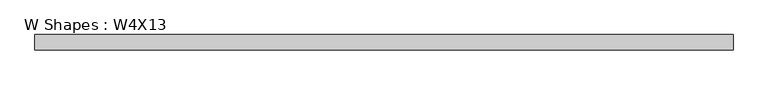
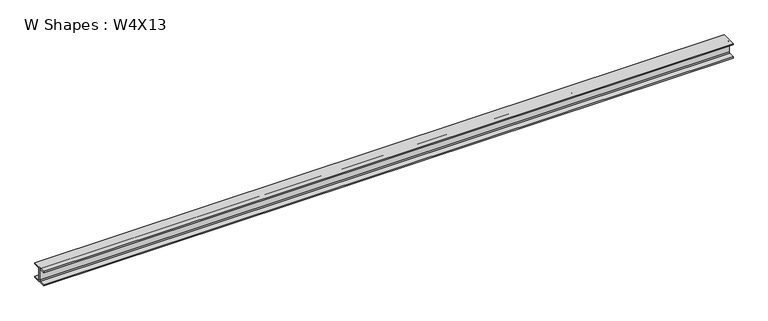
"""IFC4 building model written with IfcOpenShell, lengths in millimetres: beam geometry, W Shapes : W4X13."""

from ifc_helpers import new_model, si_unit, point, frame, frame_2d, origin, place, context, project, spatial, polyline, circle_curve, trimmed, segment, composite_curve, outline, extrude, source, transform, mapped, element, save


def w_shapes_w4x13_ff375d3b(model_context):
    return source(origin(), model_context, "Body", "SweptSolid", [
        extrude(outline(composite_curve([segment(polyline([(51.562, -44.069), (51.562, -52.832), (-51.562, -52.832), (-51.562, -44.069), (-9.906, -44.069)]), True, "CONTINUOUS"), segment(trimmed(circle_curve(frame_2d((-9.906, -37.719)), 6.35), [point((-9.906, -44.069))], [point((-3.556, -37.719))], True, "CARTESIAN"), True, "CONTINUOUS"), segment(polyline([(-3.556, -37.719), (-3.556, 37.719)]), True, "CONTINUOUS"), segment(trimmed(circle_curve(frame_2d((-9.906, 37.719)), 6.35), [point((-3.556, 37.719))], [point((-9.906, 44.069))], True, "CARTESIAN"), True, "CONTINUOUS"), segment(polyline([(-9.906, 44.069), (-51.562, 44.069), (-51.562, 52.832), (51.562, 52.832), (51.562, 44.069), (9.906, 44.069)]), True, "CONTINUOUS"), segment(trimmed(circle_curve(frame_2d((9.906, 37.719)), 6.35), [point((9.906, 44.069))], [point((3.556, 37.719))], True, "CARTESIAN"), True, "CONTINUOUS"), segment(polyline([(3.556, 37.719), (3.556, -37.719)]), True, "CONTINUOUS"), segment(trimmed(circle_curve(frame_2d((9.906, -37.719)), 6.35), [point((3.556, -37.719))], [point((9.906, -44.069))], True, "CARTESIAN"), True, "CONTINUOUS"), segment(polyline([(9.906, -44.069), (51.562, -44.069)]), True, "CONTINUOUS")], self_intersect=False)), frame((-2367.407, 0.0, 0.0), z_axis=(1.0, 0.0, 0.0), x_axis=(0.0, 1.0, 0.0)), (0.0, 0.0, 1.0), 4734.814),
    ])


if __name__ == "__main__":
    model = new_model("IFC4")
    model_context = context("Model", 3, world=origin())
    ifc_project = project(units=[si_unit("LENGTHUNIT", "METRE", prefix="MILLI")], contexts=[model_context])
    site = spatial("IfcSite", under=ifc_project)
    building = spatial("IfcBuilding", under=site)
    placement = place(None, origin())
    w_shapes_w4x13_shape = w_shapes_w4x13_ff375d3b(model_context)
    element("IfcBeam", 1, ObjectType="W Shapes : W4X13", at=placement, inside=building, context=model_context, shape_type="MappedRepresentation", body=[
        mapped(w_shapes_w4x13_shape, transform((0.0, 0.0, 0.0), x_axis=(1.0, 0.0, 0.0), y_axis=(0.0, 1.0, 0.0), z_axis=(0.0, 0.0, 1.0))),
    ])
    save(model, "model.ifc")
